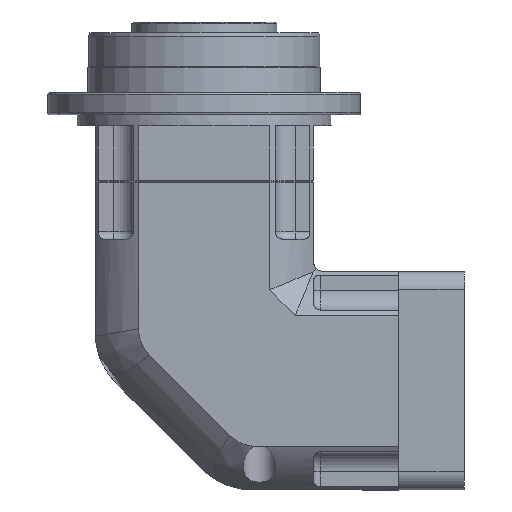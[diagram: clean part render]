
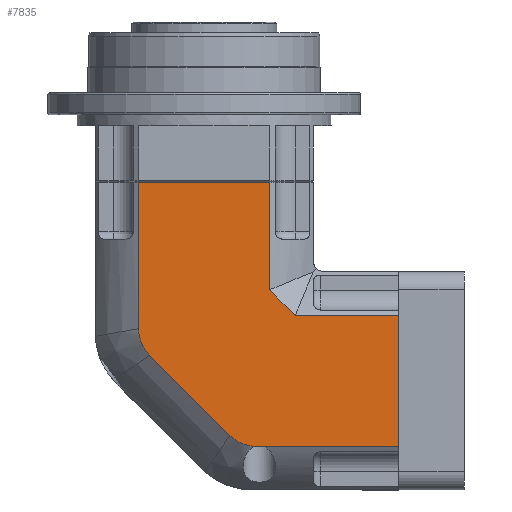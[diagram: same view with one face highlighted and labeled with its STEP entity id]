
A CAD part, left-side view. The second image highlights one B-rep face of the part: STEP entity #7835.
In plain terms, the highlighted planar face has unit normal (-1, 0, 0).
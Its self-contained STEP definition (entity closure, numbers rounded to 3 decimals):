
#6268=CARTESIAN_POINT('',(-30.,18.028,84.6));
#6269=VERTEX_POINT('',#6268);
#6277=CARTESIAN_POINT('',(-30.,-18.028,84.6));
#6278=VERTEX_POINT('',#6277);
#6279=CARTESIAN_POINT('',(-30.,-18.028,84.6));
#6280=DIRECTION('',(0.0,1.0,0.0));
#6281=VECTOR('',#6280,36.056);
#6282=LINE('',#6279,#6281);
#6283=EDGE_CURVE('',#6278,#6269,#6282,.T.);
#7114=CARTESIAN_POINT('',(-30.,-53.5,48.028));
#7115=VERTEX_POINT('',#7114);
#7123=CARTESIAN_POINT('',(-30.,-53.5,11.972));
#7124=VERTEX_POINT('',#7123);
#7125=CARTESIAN_POINT('',(-30.,-53.5,11.972));
#7126=DIRECTION('',(0.0,0.0,1.0));
#7127=VECTOR('',#7126,36.056);
#7128=LINE('',#7125,#7127);
#7129=EDGE_CURVE('',#7124,#7115,#7128,.T.);
#7613=CARTESIAN_POINT('',(-30.,-13.873,12.));
#7614=VERTEX_POINT('',#7613);
#7615=CARTESIAN_POINT('',(-30.,-16.527,12.));
#7616=VERTEX_POINT('',#7615);
#7617=CARTESIAN_POINT('',(-30.,-13.873,12.));
#7618=DIRECTION('',(0.0,-1.0,0.0));
#7619=VECTOR('',#7618,2.653);
#7620=LINE('',#7617,#7619);
#7621=EDGE_CURVE('',#7614,#7616,#7620,.T.);
#7641=CARTESIAN_POINT('',(-30.,-13.873,11.984));
#7642=VERTEX_POINT('',#7641);
#7643=CARTESIAN_POINT('',(-30.,-13.873,11.984));
#7644=DIRECTION('',(0.0,0.0,1.0));
#7645=VECTOR('',#7644,0.016);
#7646=LINE('',#7643,#7645);
#7647=EDGE_CURVE('',#7642,#7614,#7646,.T.);
#7670=CARTESIAN_POINT('',(-30.,-16.527,11.972));
#7671=VERTEX_POINT('',#7670);
#7699=CARTESIAN_POINT('',(-30.,-16.527,12.));
#7700=DIRECTION('',(0.0,0.0,-1.0));
#7701=VECTOR('',#7700,0.028);
#7702=LINE('',#7699,#7701);
#7703=EDGE_CURVE('',#7616,#7671,#7702,.T.);
#7759=CARTESIAN_POINT('',(-30.,-18.028,0.0));
#7760=DIRECTION('',(-1.0,0.0,0.0));
#7761=DIRECTION('',(0.0,0.0,1.0));
#7762=AXIS2_PLACEMENT_3D('',#7759,#7760,#7761);
#7763=PLANE('',#7762);
#7764=ORIENTED_EDGE('',*,*,#6283,.T.);
#7765=CARTESIAN_POINT('',(-30.,18.028,44.373));
#7766=VERTEX_POINT('',#7765);
#7767=CARTESIAN_POINT('',(-30.,18.028,44.373));
#7768=DIRECTION('',(0.0,0.0,1.0));
#7769=VECTOR('',#7768,40.227);
#7770=LINE('',#7767,#7769);
#7771=EDGE_CURVE('',#7766,#6269,#7770,.T.);
#7772=ORIENTED_EDGE('',*,*,#7771,.F.);
#7773=CARTESIAN_POINT('',(-30.0,15.01,37.089));
#7774=VERTEX_POINT('',#7773);
#7775=CARTESIAN_POINT('',(-30.,15.01,37.089));
#7776=CARTESIAN_POINT('',(-30.,15.971,38.049));
#7777=CARTESIAN_POINT('',(-30.0,16.733,39.172));
#7778=CARTESIAN_POINT('',(-30.0,17.773,41.68));
#7779=CARTESIAN_POINT('',(-30.,18.028,43.014));
#7780=CARTESIAN_POINT('',(-30.,18.028,44.373));
#7781=B_SPLINE_CURVE_WITH_KNOTS('',3,(#7775,#7776,#7777,#7778,#7779,#7780),.UNSPECIFIED.,.F.,.U.,(4,2,4),(0.0,0.407,0.815),.UNSPECIFIED.);
#7782=EDGE_CURVE('',#7774,#7766,#7781,.T.);
#7783=ORIENTED_EDGE('',*,*,#7782,.F.);
#7784=CARTESIAN_POINT('',(-30.,-7.089,14.99));
#7785=VERTEX_POINT('',#7784);
#7786=CARTESIAN_POINT('',(-30.,15.01,37.089));
#7787=DIRECTION('',(0.0,-0.707,-0.707));
#7788=VECTOR('',#7787,31.253);
#7789=LINE('',#7786,#7788);
#7790=EDGE_CURVE('',#7774,#7785,#7789,.T.);
#7791=ORIENTED_EDGE('',*,*,#7790,.T.);
#7792=CARTESIAN_POINT('',(-30.,-13.873,11.984));
#7793=CARTESIAN_POINT('',(-30.,-12.688,12.039));
#7794=CARTESIAN_POINT('',(-30.0,-11.528,12.291));
#7795=CARTESIAN_POINT('',(-30.0,-9.174,13.265));
#7796=CARTESIAN_POINT('',(-30.0,-8.05,14.028));
#7797=CARTESIAN_POINT('',(-30.0,-7.089,14.99));
#7798=B_SPLINE_CURVE_WITH_KNOTS('',3,(#7792,#7793,#7794,#7795,#7796,#7797),.UNSPECIFIED.,.F.,.U.,(4,2,4),(0.05,0.407,0.815),.UNSPECIFIED.);
#7799=EDGE_CURVE('',#7642,#7785,#7798,.T.);
#7800=ORIENTED_EDGE('',*,*,#7799,.F.);
#7801=ORIENTED_EDGE('',*,*,#7647,.T.);
#7802=ORIENTED_EDGE('',*,*,#7621,.T.);
#7803=ORIENTED_EDGE('',*,*,#7703,.T.);
#7804=CARTESIAN_POINT('',(-30.,-16.527,11.972));
#7805=DIRECTION('',(0.0,-1.0,0.0));
#7806=VECTOR('',#7805,36.973);
#7807=LINE('',#7804,#7806);
#7808=EDGE_CURVE('',#7671,#7124,#7807,.T.);
#7809=ORIENTED_EDGE('',*,*,#7808,.T.);
#7810=ORIENTED_EDGE('',*,*,#7129,.T.);
#7811=CARTESIAN_POINT('',(-30.,-25.041,48.028));
#7812=VERTEX_POINT('',#7811);
#7813=CARTESIAN_POINT('',(-30.,-25.041,48.028));
#7814=DIRECTION('',(0.0,-1.0,0.0));
#7815=VECTOR('',#7814,28.459);
#7816=LINE('',#7813,#7815);
#7817=EDGE_CURVE('',#7812,#7115,#7816,.T.);
#7818=ORIENTED_EDGE('',*,*,#7817,.F.);
#7819=CARTESIAN_POINT('',(-30.,-18.028,55.041));
#7820=VERTEX_POINT('',#7819);
#7821=CARTESIAN_POINT('',(-30.,-18.028,55.041));
#7822=DIRECTION('',(0.0,-0.707,-0.707));
#7823=VECTOR('',#7822,9.918);
#7824=LINE('',#7821,#7823);
#7825=EDGE_CURVE('',#7820,#7812,#7824,.T.);
#7826=ORIENTED_EDGE('',*,*,#7825,.F.);
#7827=CARTESIAN_POINT('',(-30.,-18.028,55.041));
#7828=DIRECTION('',(0.0,0.0,1.0));
#7829=VECTOR('',#7828,29.559);
#7830=LINE('',#7827,#7829);
#7831=EDGE_CURVE('',#7820,#6278,#7830,.T.);
#7832=ORIENTED_EDGE('',*,*,#7831,.T.);
#7833=EDGE_LOOP('',(#7764,#7772,#7783,#7791,#7800,#7801,#7802,#7803,#7809,#7810,#7818,#7826,#7832));
#7834=FACE_OUTER_BOUND('',#7833,.T.);
#7835=ADVANCED_FACE('',(#7834),#7763,.T.);
